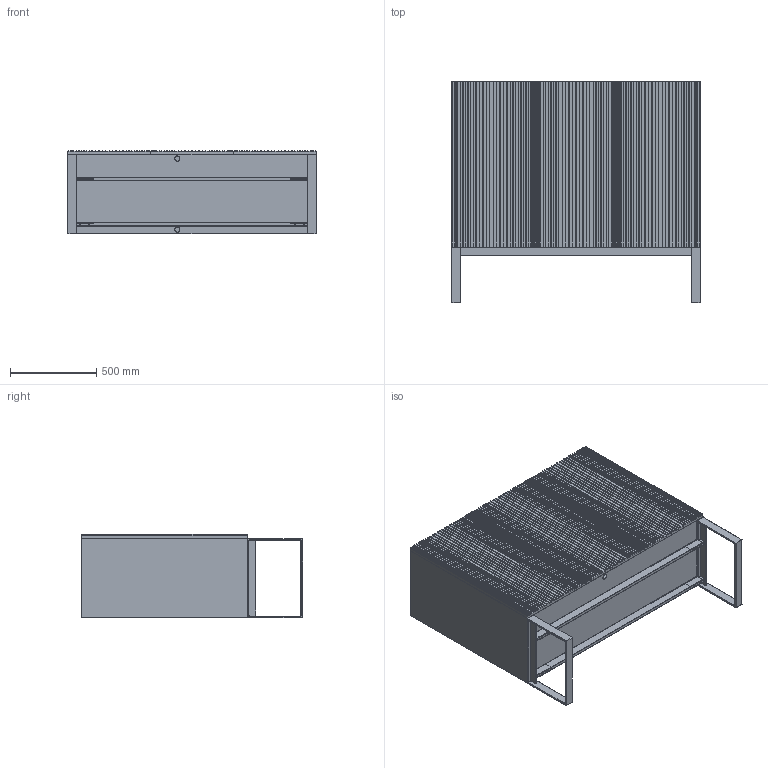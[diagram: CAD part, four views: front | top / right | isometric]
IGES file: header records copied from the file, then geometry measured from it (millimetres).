
Start section: SolidWorks IGES file using analytic representation for surfaces
Global section: file name: C:\Users\serena.trevisiol\Desktop\Nuova cartella\CARLOS cm 144x49x128H.IGS; native system: SolidWorks 2016; preprocessor: SolidWorks 2016; author: serena.trevisiol; date: 160609.091225; units: millimetre
Bounding box: 1440 x 1280 x 484 mm (x, y, z)
Surface area: 17077124.9 mm2 (no closed solid volume)
Topology: 0 solids, 0 shells, 1172 faces, 7080 edges, 7072 vertices
Faces by surface type: bspline 1088, revolution 84
